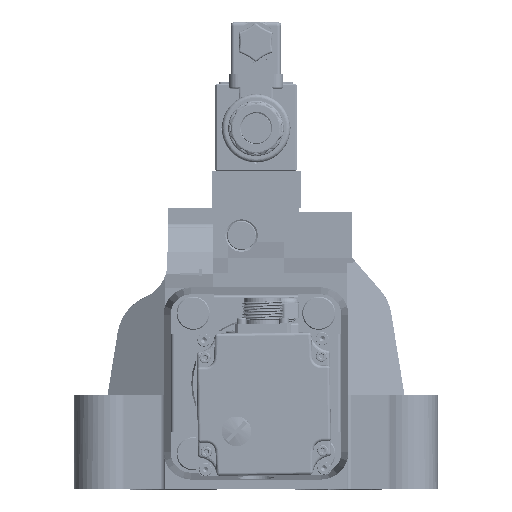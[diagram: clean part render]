
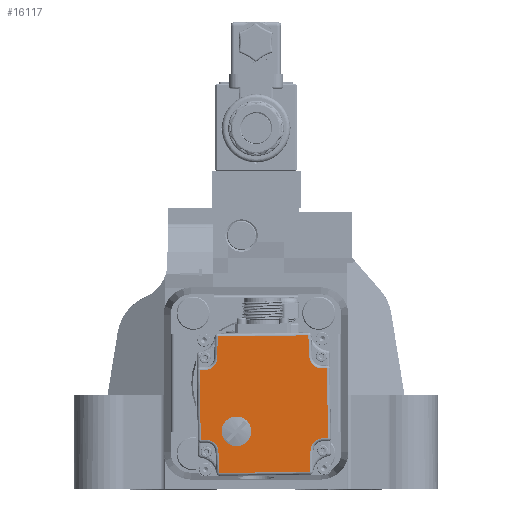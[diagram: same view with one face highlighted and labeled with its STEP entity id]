
A CAD part, left-side view. The second image highlights one B-rep face of the part: STEP entity #16117.
In plain terms, the highlighted planar face has unit normal (-1, 0, 0).
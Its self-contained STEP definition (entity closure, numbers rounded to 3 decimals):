
#13476=FACE_BOUND('',#24736,.T.);
#13477=FACE_BOUND('',#24737,.T.);
#16117=ADVANCED_FACE('',(#13476,#13477),#19310,.T.);
#19310=PLANE('',#70184);
#24736=EDGE_LOOP('',(#41834));
#24737=EDGE_LOOP('',(#41835,#41836,#41837,#41838,#41839,#41840,#41841,#41842,
#41843,#41844,#41845,#41846,#41847,#41848,#41849,#41850));
#29354=LINE('',#148597,#33233);
#29355=LINE('',#148600,#33234);
#29356=LINE('',#148604,#33235);
#29357=LINE('',#148606,#33236);
#29358=LINE('',#148608,#33237);
#29359=LINE('',#148612,#33238);
#29360=LINE('',#148614,#33239);
#29361=LINE('',#148616,#33240);
#29362=LINE('',#148620,#33241);
#29363=LINE('',#148622,#33242);
#29364=LINE('',#148624,#33243);
#29365=LINE('',#148628,#33244);
#33233=VECTOR('',#79775,1.);
#33234=VECTOR('',#79776,1.);
#33235=VECTOR('',#79779,1.);
#33236=VECTOR('',#79780,1.);
#33237=VECTOR('',#79781,1.);
#33238=VECTOR('',#79784,1.);
#33239=VECTOR('',#79785,1.);
#33240=VECTOR('',#79786,1.);
#33241=VECTOR('',#79789,1.);
#33242=VECTOR('',#79790,1.);
#33243=VECTOR('',#79791,1.);
#33244=VECTOR('',#79794,1.);
#41834=ORIENTED_EDGE('',*,*,#60834,.F.);
#41835=ORIENTED_EDGE('',*,*,#60835,.T.);
#41836=ORIENTED_EDGE('',*,*,#60836,.T.);
#41837=ORIENTED_EDGE('',*,*,#60837,.T.);
#41838=ORIENTED_EDGE('',*,*,#60838,.T.);
#41839=ORIENTED_EDGE('',*,*,#60839,.T.);
#41840=ORIENTED_EDGE('',*,*,#60840,.T.);
#41841=ORIENTED_EDGE('',*,*,#60841,.T.);
#41842=ORIENTED_EDGE('',*,*,#60842,.T.);
#41843=ORIENTED_EDGE('',*,*,#60843,.T.);
#41844=ORIENTED_EDGE('',*,*,#60844,.T.);
#41845=ORIENTED_EDGE('',*,*,#60845,.T.);
#41846=ORIENTED_EDGE('',*,*,#60846,.T.);
#41847=ORIENTED_EDGE('',*,*,#60847,.T.);
#41848=ORIENTED_EDGE('',*,*,#60848,.T.);
#41849=ORIENTED_EDGE('',*,*,#60849,.T.);
#41850=ORIENTED_EDGE('',*,*,#60850,.T.);
#54199=VERTEX_POINT('',#148596);
#54200=VERTEX_POINT('',#148598);
#54201=VERTEX_POINT('',#148599);
#54202=VERTEX_POINT('',#148601);
#54203=VERTEX_POINT('',#148603);
#54204=VERTEX_POINT('',#148605);
#54205=VERTEX_POINT('',#148607);
#54206=VERTEX_POINT('',#148609);
#54207=VERTEX_POINT('',#148611);
#54208=VERTEX_POINT('',#148613);
#54209=VERTEX_POINT('',#148615);
#54210=VERTEX_POINT('',#148617);
#54211=VERTEX_POINT('',#148619);
#54212=VERTEX_POINT('',#148621);
#54213=VERTEX_POINT('',#148623);
#54214=VERTEX_POINT('',#148625);
#54215=VERTEX_POINT('',#148627);
#60834=EDGE_CURVE('',#54199,#54199,#66515,.T.);
#60835=EDGE_CURVE('',#54200,#54201,#29354,.T.);
#60836=EDGE_CURVE('',#54201,#54202,#29355,.T.);
#60837=EDGE_CURVE('',#54202,#54203,#66516,.T.);
#60838=EDGE_CURVE('',#54203,#54204,#29356,.T.);
#60839=EDGE_CURVE('',#54204,#54205,#29357,.T.);
#60840=EDGE_CURVE('',#54205,#54206,#29358,.T.);
#60841=EDGE_CURVE('',#54206,#54207,#66517,.T.);
#60842=EDGE_CURVE('',#54207,#54208,#29359,.T.);
#60843=EDGE_CURVE('',#54208,#54209,#29360,.T.);
#60844=EDGE_CURVE('',#54209,#54210,#29361,.T.);
#60845=EDGE_CURVE('',#54210,#54211,#66518,.T.);
#60846=EDGE_CURVE('',#54211,#54212,#29362,.T.);
#60847=EDGE_CURVE('',#54212,#54213,#29363,.T.);
#60848=EDGE_CURVE('',#54213,#54214,#29364,.T.);
#60849=EDGE_CURVE('',#54214,#54215,#66519,.T.);
#60850=EDGE_CURVE('',#54215,#54200,#29365,.T.);
#66515=CIRCLE('',#70179,8.);
#66516=CIRCLE('',#70180,6.6);
#66517=CIRCLE('',#70181,6.6);
#66518=CIRCLE('',#70182,6.6);
#66519=CIRCLE('',#70183,6.6);
#70179=AXIS2_PLACEMENT_3D('',#148595,#79773,#79774);
#70180=AXIS2_PLACEMENT_3D('',#148602,#79777,#79778);
#70181=AXIS2_PLACEMENT_3D('',#148610,#79782,#79783);
#70182=AXIS2_PLACEMENT_3D('',#148618,#79787,#79788);
#70183=AXIS2_PLACEMENT_3D('',#148626,#79792,#79793);
#70184=AXIS2_PLACEMENT_3D('',#148629,#79795,#79796);
#79773=DIRECTION('',(-1.,0.,0.));
#79774=DIRECTION('',(0.,-1.,0.013));
#79775=DIRECTION('',(0.,-1.,0.013));
#79776=DIRECTION('',(0.,-0.022,1.));
#79777=DIRECTION('',(1.,0.,0.));
#79778=DIRECTION('',(0.,-1.,0.013));
#79779=DIRECTION('',(0.,-1.,0.013));
#79780=DIRECTION('',(0.,0.013,1.));
#79781=DIRECTION('',(0.,1.,-0.013));
#79782=DIRECTION('',(1.,0.,0.));
#79783=DIRECTION('',(0.,-1.,0.013));
#79784=DIRECTION('',(0.,0.047,0.999));
#79785=DIRECTION('',(0.,1.,-0.013));
#79786=DIRECTION('',(0.,0.022,-1.));
#79787=DIRECTION('',(1.,0.,0.));
#79788=DIRECTION('',(0.,-1.,0.013));
#79789=DIRECTION('',(0.,1.,-0.013));
#79790=DIRECTION('',(0.,-0.013,-1.));
#79791=DIRECTION('',(0.,-1.,0.013));
#79792=DIRECTION('',(1.,0.,0.));
#79793=DIRECTION('',(0.,-1.,0.013));
#79794=DIRECTION('',(0.,-0.047,-0.999));
#79795=DIRECTION('',(-1.,0.,0.));
#79796=DIRECTION('',(0.,-1.,0.013));
#148595=CARTESIAN_POINT('',(-357.325,79.396,-79.249));
#148596=CARTESIAN_POINT('',(-357.325,71.396,-79.147));
#148597=CARTESIAN_POINT('',(-357.325,39.603,-101.145));
#148598=CARTESIAN_POINT('',(-357.325,88.613,-101.768));
#148599=CARTESIAN_POINT('',(-357.325,39.612,-101.146));
#148600=CARTESIAN_POINT('',(-357.325,39.616,-101.311));
#148601=CARTESIAN_POINT('',(-357.325,39.359,-89.712));
#148602=CARTESIAN_POINT('',(-357.325,32.76,-89.658));
#148603=CARTESIAN_POINT('',(-357.325,32.843,-83.058));
#148604=CARTESIAN_POINT('',(-357.325,28.344,-83.001));
#148605=CARTESIAN_POINT('',(-357.325,29.944,-83.021));
#148606=CARTESIAN_POINT('',(-357.325,30.444,-43.624));
#148607=CARTESIAN_POINT('',(-357.325,30.424,-45.224));
#148608=CARTESIAN_POINT('',(-357.325,33.324,-45.261));
#148609=CARTESIAN_POINT('',(-357.325,33.324,-45.261));
#148610=CARTESIAN_POINT('',(-357.325,33.407,-38.662));
#148611=CARTESIAN_POINT('',(-357.325,40.006,-38.775));
#148612=CARTESIAN_POINT('',(-357.325,40.725,-23.652));
#148613=CARTESIAN_POINT('',(-357.325,40.549,-27.351));
#148614=CARTESIAN_POINT('',(-357.325,89.559,-27.974));
#148615=CARTESIAN_POINT('',(-357.325,89.55,-27.974));
#148616=CARTESIAN_POINT('',(-357.325,89.546,-27.809));
#148617=CARTESIAN_POINT('',(-357.325,89.803,-39.408));
#148618=CARTESIAN_POINT('',(-357.325,96.402,-39.462));
#148619=CARTESIAN_POINT('',(-357.325,96.319,-46.061));
#148620=CARTESIAN_POINT('',(-357.325,100.818,-46.119));
#148621=CARTESIAN_POINT('',(-357.325,99.218,-46.098));
#148622=CARTESIAN_POINT('',(-357.325,98.718,-85.495));
#148623=CARTESIAN_POINT('',(-357.325,98.738,-83.895));
#148624=CARTESIAN_POINT('',(-357.325,95.838,-83.858));
#148625=CARTESIAN_POINT('',(-357.325,95.838,-83.858));
#148626=CARTESIAN_POINT('',(-357.325,95.755,-90.458));
#148627=CARTESIAN_POINT('',(-357.325,89.156,-90.344));
#148628=CARTESIAN_POINT('',(-357.325,92.209,-26.099));
#148629=CARTESIAN_POINT('',(-357.325,101.067,-26.52));
